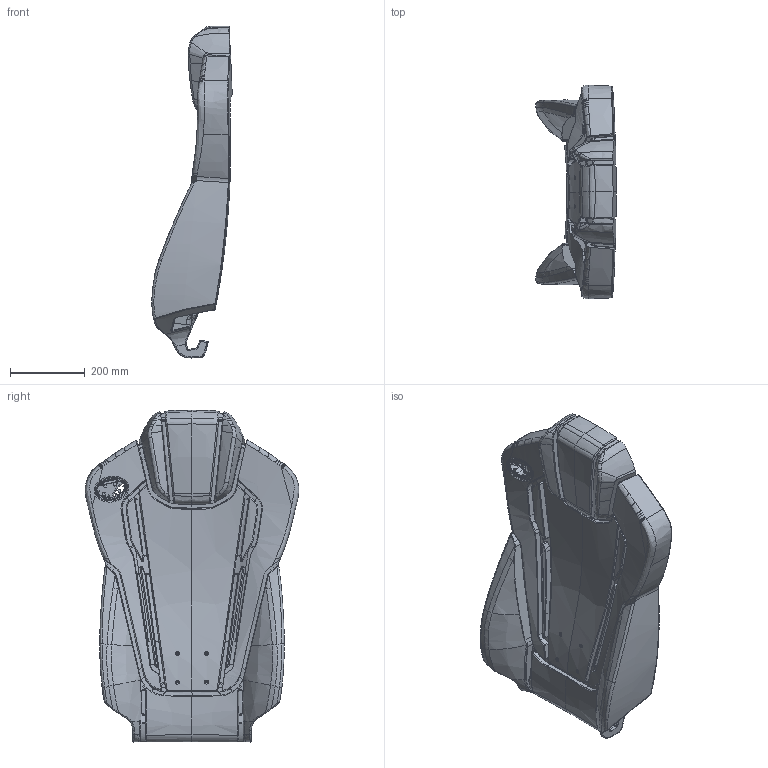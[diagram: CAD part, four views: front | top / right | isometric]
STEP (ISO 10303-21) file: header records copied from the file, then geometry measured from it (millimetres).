
FILE_DESCRIPTION(('CATIA V5 STEP Exchange'),'2;1');
FILE_NAME('D:\新建文件夹\宋国明\项目\02-福田A6-张甲\骨架钣金\输出\靠背坐垫发泡\新建文件夹\靠背\SHT0016196.stp','2024-04-15T13:10:09+00:00',('none'),('none'),'CATIA Version 5 Release 20 GA (IN-10)','CATIA V5 STEP AP214','none');
FILE_SCHEMA(('AUTOMOTIVE_DESIGN { 1 0 10303 214 1 1 1 1 }'));
Products named in the file (1): Copy (1) of fanzhekao-0411
Bounding box: 215.42 x 573.34 x 890.22 mm (x, y, z)
Volume: 22605302.9 mm3; surface area: 1708984.5 mm2
Topology: 19 solids, 19 shells, 4365 faces, 12112 edges, 7724 vertices
Faces by surface type: plane 2166, bspline 1527, cylinder 489, torus 103, sphere 48, extrusion 32
Entity records: 318751 total; most frequent: CARTESIAN_POINT 226441, ORIENTED_EDGE 24028, EDGE_CURVE 12014, DIRECTION 10764, VERTEX_POINT 7716, B_SPLINE_CURVE_WITH_KNOTS 6630, VECTOR 4883, LINE 4851
